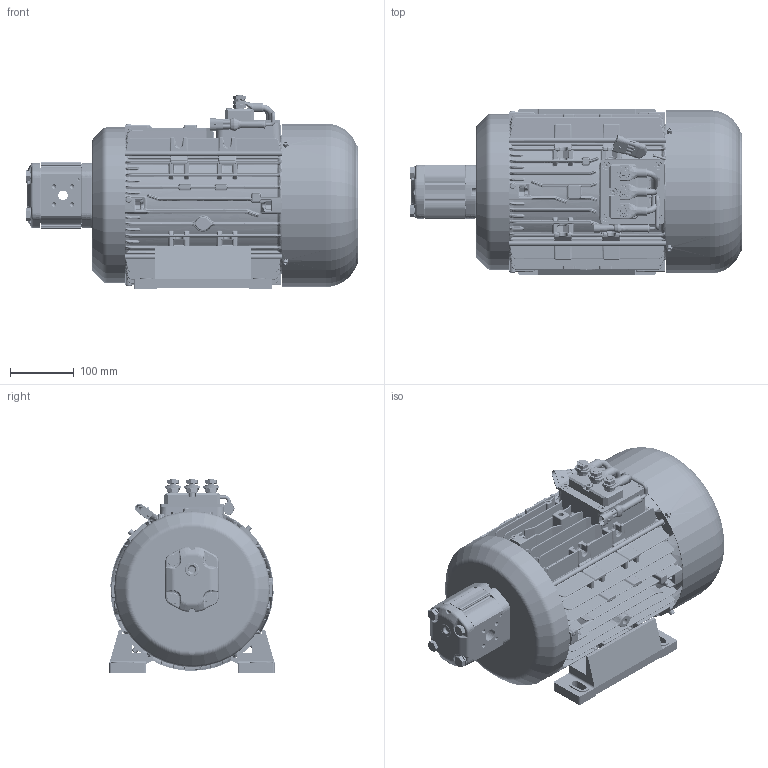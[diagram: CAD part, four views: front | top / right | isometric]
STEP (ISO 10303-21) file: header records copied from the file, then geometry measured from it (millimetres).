
FILE_DESCRIPTION(/* description */ (''),/* implementation_level */ '2;1');
FILE_NAME(/* name */ 'Z:\SITO WEB 2023\Elettropompe\Elettropompe AC\D.200 mm\AMP200.GR2.stp',/* time_stamp */ '2023-09-18T16:57:39+02:00',/* author */ ('cad3'),/* organization */ (''),/* preprocessor_version */ 'ST-DEVELOPER v18.1',/* originating_system */ 'Autodesk Inventor 2022',/* authorisation */ '');
FILE_SCHEMA (('AUTOMOTIVE_DESIGN { 1 0 10303 214 3 1 1 }'));
Length unit declared in the file: millimetre
Products named in the file (1): AMP200.GR2
Bounding box: 522.2 x 260 x 305.7 mm (x, y, z)
Volume: 4596998.1 mm3; surface area: 1601904.9 mm2
Topology: 4 solids, 45 shells, 12770 faces, 32411 edges, 19842 vertices
Faces by surface type: plane 5378, cylinder 3018, bspline 2588, cone 829, torus 644, sphere 313
Full cylindrical faces by diameter (mm): 2 x8, 3.242 x1, 3.6 x4, 4 x19, 4.134 x4, 4.917 x12, 5 x4, 5.04 x1, 5.3 x4, 5.5 x5, 6 x22, 6.3 x2, 6.4 x4, 6.5 x10, 6.647 x4, 8 x9, 8.376 x4, 8.5 x4, 8.6 x2, 9 x11, 9.2 x2, 9.5 x4, 9.8 x9, 10 x26, 10.2 x3, 10.5 x24, 11 x3, 11.57 x4, 12.5 x4, 14 x8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
Entity records: 544255 total; most frequent: CARTESIAN_POINT 233201, ORIENTED_EDGE 64390, DIRECTION 61125, EDGE_CURVE 32195, AXIS2_PLACEMENT_3D 22938, VERTEX_POINT 19842, LINE 15249, VECTOR 15249
